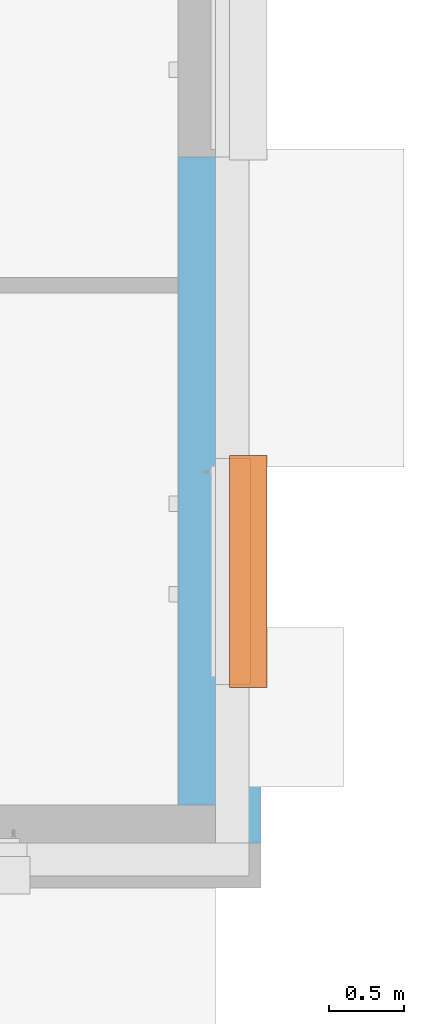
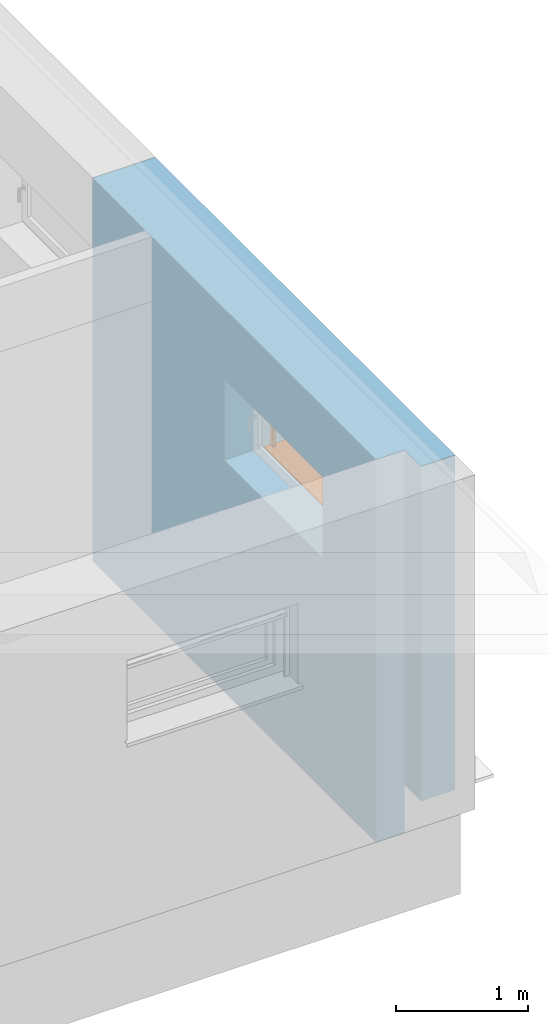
# One storey, part 111 of 140: 2 proxies, 1 opening, plus 1 element that does not belong to this part.
"""IFC4 building model written with IfcOpenShell, lengths in metres."""

from ifc_helpers import new_model, entity, si_unit, converted_unit, derived_unit, frame, origin, origin_with_axes, place, context, subcontext, project, spatial, polyline, outline, extrude, clip, bounded_halfspace, faceted_brep, source, transform, mapped, material, layer, layer_set, layer_usage, element, fill, save


model = new_model("IFC4")

# Units and contexts
model_context = context("Model", 3, precision=1e-05, world=origin())
body_context = subcontext(model_context, "Body", "Model", "MODEL_VIEW")
ifc_project = project(units=[si_unit("LENGTHUNIT", "METRE"), si_unit("AREAUNIT", "SQUARE_METRE"), si_unit("VOLUMEUNIT", "CUBIC_METRE"), si_unit("MASSUNIT", "GRAM", prefix="KILO"), converted_unit("PLANEANGLEUNIT", "DEGREE", entity("IfcPlaneAngleMeasure", 0.0174532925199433), si_unit("PLANEANGLEUNIT", "RADIAN"), dimensions=[0, 0, 0, 0, 0, 0, 0]), derived_unit("THERMALTRANSMITTANCEUNIT", [(si_unit("POWERUNIT", "WATT"), 1), (si_unit("THERMODYNAMICTEMPERATUREUNIT", "KELVIN"), -1), (si_unit("LENGTHUNIT", "METRE"), -2)]), derived_unit("VOLUMETRICFLOWRATEUNIT", [(si_unit("LENGTHUNIT", "METRE"), 3), (converted_unit("TIMEUNIT", "hour", entity("IfcTimeMeasure", 3600.0), si_unit("TIMEUNIT", "SECOND"), dimensions=[0, 0, 1, 0, 0, 0, 0]), -1), (si_unit("LENGTHUNIT", "METRE"), -1)])], contexts=[model_context])

# Site, building, storey
site_placement = place(None, origin())
site = spatial("IfcSite", under=ifc_project, at=site_placement, Name="3. ASŘ", CompositionType="ELEMENT")
building_placement = place(site_placement, origin())
building = spatial("IfcBuilding", under=site, at=building_placement, Name="Pavilon C", CompositionType="ELEMENT")
storey_placement = place(building_placement, origin())
storey = spatial("IfcBuildingStorey", under=building, at=storey_placement, Name="Půdorys 1.NP", CompositionType="ELEMENT", Elevation=0.0)

# Wall, opening, proxies
ifc_material_1 = material(Name="ZELEZOBETONOVÁ KCE")
ifc_layer_1 = layer(ifc_material_1, 0.25)
ifc_material_2 = material(Name="MINERÁLNÍ VATA")
ifc_layer_2 = layer(ifc_material_2, 0.3)
ifc_layer_set = layer_set([ifc_layer_1, ifc_layer_2])
ifc_layer_usage = layer_usage(ifc_layer_set, "AXIS2", "POSITIVE", 0.0)
wall_placement = place(storey_placement, frame((63.55, 10.9, -0.15), z_axis=(0.0, 0.0, 1.0), x_axis=(0.0, -1.0, 0.0)))
wall = element("IfcWall", 1, at=wall_placement, inside=storey, material=ifc_layer_usage, Name="ZELEZOBETONOVÁ KCE", context=body_context, shape_type="Clipping", body=[
    clip(extrude(outline(polyline([(-4.54999999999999, 0.0), (-0.25, 0.0), (-0.25, 0.25), (0.0, 0.25), (0.0, 0.55), (-4.54999999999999, 0.55), (-4.54999999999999, 0.0)])), frame((4.54999999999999, 0.0, 0.0), z_axis=(0.0, 0.0, 1.0), x_axis=(1.0, 0.0, 0.0)), (0.0, 0.0, 1.0), 3.55), bounded_halfspace(frame((2.67999999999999, 0.37, 0.45), z_axis=(0.0, 0.0, 1.0), x_axis=(0.0, -1.0, 0.0)), True, origin_with_axes(), polyline([(0.0, 0.55), (0.0, 0.249999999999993), (4.29999999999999, 0.249999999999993), (4.54999999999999, 0.25), (4.54999999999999, 0.55), (0.0, 0.55)]))),
])
opening_placement = place(wall_placement, frame((3.5, 0.25, 2.15), z_axis=(0.0, -1.0, 0.0), x_axis=(0.0, 0.0, 1.0)))
opening = element("IfcOpeningElement", 2, at=opening_placement, cuts=wall, Name="Okenní otvor", ObjectType="Opening", context=body_context, shape_type="SweptSolid", body=[
    extrude(outline(polyline([(0.0, 1.5), (0.75, 1.5), (0.75, 0.0), (0.0, 0.0), (0.0, 1.5)])), origin_with_axes(), (0.0, 0.0, 1.0), 0.25),
    extrude(outline(polyline([(0.0, 1.5), (0.75, 1.5), (0.75, 0.0), (0.0, 0.0), (0.0, 1.5)])), frame((0.0, 0.0, -0.3), z_axis=(0.0, 0.0, 1.0), x_axis=(1.0, 0.0, 0.0)), (0.0, 0.0, 1.0), 0.3),
])
ifc_material_3 = material(Name="HLINÍKOVÝ PLECH ELOXOVANÝ")
shared_shape_1 = source(origin_with_axes(), body_context, "Body", "Brep", [
    faceted_brep([(-1.81898940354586e-15, -0.299999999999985, 0.0), (-1.81898940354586e-15, -0.0919999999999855, 0.0), (-1.81898940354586e-15, -0.0919999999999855, 0.005), (-1.81898940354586e-15, -0.299999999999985, 0.005), (1.5, -0.299999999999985, 0.0), (1.5, -0.299999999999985, 0.005), (1.5, -0.0919999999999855, 0.005), (1.5, -0.0919999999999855, 0.0), (-0.0200000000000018, -0.299999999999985, 0.0), (-0.0200000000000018, -0.334999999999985, 0.0), (1.52, -0.334999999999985, 0.0), (1.52, -0.299999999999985, 0.0), (1.52, -0.299999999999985, 0.005), (1.52, -0.339999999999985, 0.005), (-0.0200000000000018, -0.339999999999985, 0.005), (-0.0200000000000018, -0.299999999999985, 0.005), (-0.0200000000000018, -0.339999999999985, -0.025), (-0.0200000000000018, -0.334999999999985, -0.025), (1.52, -0.334999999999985, -0.025), (1.52, -0.339999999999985, -0.025)], [[[0, 1, 2, 3]], [[4, 5, 6, 7]], [[1, 0, 8, 9, 10, 11, 4, 7]], [[2, 1, 7, 6]], [[3, 2, 6, 5, 12, 13, 14, 15]], [[8, 15, 14, 16, 17, 9]], [[11, 10, 18, 19, 13, 12]], [[15, 8, 0, 3]], [[5, 4, 11, 12]], [[16, 14, 13, 19]], [[17, 16, 19, 18]], [[9, 17, 18, 10]]], orient=[[False], [False], [False], [False], [False], [False], [False], [False], [False], [False], [False], [False]]),
    faceted_brep([(-0.0200000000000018, -0.299999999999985, 0.0), (-0.0200000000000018, -0.0919999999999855, 0.0), (-0.0200000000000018, -0.0919999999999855, 0.005), (-0.0200000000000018, -0.299999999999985, 0.005), (-1.81898940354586e-15, -0.299999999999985, 0.0), (-1.81898940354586e-15, -0.299999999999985, 0.005), (-1.81898940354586e-15, -0.0919999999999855, 0.005), (-1.81898940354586e-15, -0.0919999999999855, 0.0)], [[[0, 1, 2, 3]], [[4, 5, 6, 7]], [[1, 0, 4, 7]], [[2, 1, 7, 6]], [[3, 2, 6, 5]], [[0, 3, 5, 4]]], orient=[[False], [False], [False], [False], [False], [False]]),
    faceted_brep([(1.5, -0.299999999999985, 0.0), (1.5, -0.0919999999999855, 0.0), (1.5, -0.0919999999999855, 0.005), (1.5, -0.299999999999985, 0.005), (1.52, -0.299999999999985, 0.0), (1.52, -0.299999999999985, 0.005), (1.52, -0.0919999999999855, 0.005), (1.52, -0.0919999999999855, 0.0)], [[[0, 1, 2, 3]], [[4, 5, 6, 7]], [[1, 0, 4, 7]], [[2, 1, 7, 6]], [[3, 2, 6, 5]], [[0, 3, 5, 4]]], orient=[[False], [False], [False], [False], [False], [False]]),
])
proxy_1_placement = place(opening_placement, frame((0.0, 0.0, 0.0), z_axis=(1.0, 0.0, 0.0), x_axis=(0.0, 1.0, 0.0)))
proxy_1 = element("IfcBuildingElementProxy", 3, at=proxy_1_placement, inside=storey, material=ifc_material_3, Name="Parapet vnější", context=body_context, shape_type="MappedRepresentation", body=[
    mapped(shared_shape_1, transform((0.0, 0.0, 0.0), x_axis=(1.0, 0.0, 0.0), y_axis=(0.0, 1.0, 0.0), z_axis=(0.0, 0.0, 1.0), scale=1.0)),
])
fill(opening, proxy_1)
shared_shape_2 = source(origin_with_axes(), body_context, "Body", "Brep", [
    faceted_brep([(-1.81898940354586e-15, -0.231999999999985, 0.75), (-1.81898940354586e-15, -0.229999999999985, 0.75), (-1.81898940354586e-15, -0.229999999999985, 0.948), (-1.81898940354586e-15, -0.0939999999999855, 0.948), (-1.81898940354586e-15, -0.0939999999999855, 0.75), (-1.81898940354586e-15, -0.0919999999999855, 0.75), (-1.81898940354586e-15, -0.0919999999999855, 0.95), (-1.81898940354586e-15, -0.231999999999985, 0.95), (1.5, -0.229999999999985, 0.75), (1.5, -0.231999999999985, 0.75), (1.5, -0.231999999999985, 0.95), (1.5, -0.0919999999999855, 0.95), (1.5, -0.0919999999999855, 0.75), (1.5, -0.0939999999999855, 0.75), (1.5, -0.0939999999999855, 0.948), (1.5, -0.229999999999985, 0.948)], [[[0, 1, 2, 3, 4, 5, 6, 7]], [[8, 9, 10, 11, 12, 13, 14, 15]], [[1, 0, 9, 8]], [[2, 1, 8, 15]], [[3, 2, 15, 14]], [[4, 3, 14, 13]], [[5, 4, 13, 12]], [[6, 5, 12, 11]], [[7, 6, 11, 10]], [[0, 7, 10, 9]]], orient=[[False], [False], [False], [False], [False], [False], [False], [False], [False], [False]]),
    faceted_brep([(-1.81898940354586e-15, -0.229999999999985, 0.75), (-1.81898940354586e-15, -0.0939999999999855, 0.75), (-1.81898940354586e-15, -0.0939999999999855, 0.948), (-1.81898940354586e-15, -0.229999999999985, 0.948), (0.00199999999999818, -0.0939999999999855, 0.75), (0.00199999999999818, -0.229999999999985, 0.75), (0.00199999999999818, -0.229999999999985, 0.948), (0.00199999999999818, -0.0939999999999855, 0.948)], [[[0, 1, 2, 3]], [[4, 5, 6, 7]], [[1, 0, 5, 4]], [[2, 1, 4, 7]], [[3, 2, 7, 6]], [[0, 3, 6, 5]]], orient=[[False], [False], [False], [False], [False], [False]]),
    faceted_brep([(1.498, -0.229999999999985, 0.75), (1.498, -0.0939999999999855, 0.75), (1.498, -0.0939999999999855, 0.948), (1.498, -0.229999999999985, 0.948), (1.5, -0.0939999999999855, 0.75), (1.5, -0.229999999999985, 0.75), (1.5, -0.229999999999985, 0.948), (1.5, -0.0939999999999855, 0.948)], [[[0, 1, 2, 3]], [[4, 5, 6, 7]], [[1, 0, 5, 4]], [[2, 1, 4, 7]], [[3, 2, 7, 6]], [[0, 3, 6, 5]]], orient=[[False], [False], [False], [False], [False], [False]]),
    faceted_brep([(0.00199999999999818, -0.151999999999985, 0.0), (0.00199999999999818, -0.171999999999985, 0.0), (0.0419999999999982, -0.171999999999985, 0.0), (0.0419999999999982, -0.151999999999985, 0.0), (0.00199999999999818, -0.171999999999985, 0.769), (0.00199999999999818, -0.151999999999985, 0.769), (0.0419999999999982, -0.151999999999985, 0.769), (0.0419999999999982, -0.171999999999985, 0.769)], [[[0, 1, 2, 3]], [[4, 5, 6, 7]], [[1, 0, 5, 4]], [[2, 1, 4, 7]], [[3, 2, 7, 6]], [[0, 3, 6, 5]]], orient=[[False], [False], [False], [False], [False], [False]]),
    faceted_brep([(1.458, -0.151999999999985, 0.0), (1.458, -0.171999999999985, 0.0), (1.498, -0.171999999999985, 0.0), (1.498, -0.151999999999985, 0.0), (1.458, -0.171999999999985, 0.769), (1.458, -0.151999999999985, 0.769), (1.498, -0.151999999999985, 0.769), (1.498, -0.171999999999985, 0.769)], [[[0, 1, 2, 3]], [[4, 5, 6, 7]], [[1, 0, 5, 4]], [[2, 1, 4, 7]], [[3, 2, 7, 6]], [[0, 3, 6, 5]]], orient=[[False], [False], [False], [False], [False], [False]]),
    faceted_brep([(0.0419999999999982, -0.121999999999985, 0.6021), (0.0419999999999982, -0.201999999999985, 0.6021), (0.0419999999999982, -0.201999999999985, 0.5871), (0.0419999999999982, -0.121999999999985, 0.5871), (1.458, -0.201999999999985, 0.6021), (1.458, -0.121999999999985, 0.6021), (1.458, -0.121999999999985, 0.5871), (1.458, -0.201999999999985, 0.5871)], [[[0, 1, 2, 3]], [[4, 5, 6, 7]], [[1, 0, 5, 4]], [[2, 1, 4, 7]], [[3, 2, 7, 6]], [[0, 3, 6, 5]]], orient=[[False], [False], [False], [False], [False], [False]]),
    faceted_brep([(0.0419999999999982, -0.121999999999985, 0.6031), (0.0419999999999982, -0.201999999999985, 0.6031), (0.0419999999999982, -0.201999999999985, 0.6021), (0.0419999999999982, -0.121999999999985, 0.6021), (1.458, -0.201999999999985, 0.6031), (1.458, -0.121999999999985, 0.6031), (1.458, -0.121999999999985, 0.6021), (1.458, -0.201999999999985, 0.6021)], [[[0, 1, 2, 3]], [[4, 5, 6, 7]], [[1, 0, 5, 4]], [[2, 1, 4, 7]], [[3, 2, 7, 6]], [[0, 3, 6, 5]]], orient=[[False], [False], [False], [False], [False], [False]]),
    faceted_brep([(0.0419999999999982, -0.121999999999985, 0.6041), (0.0419999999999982, -0.201999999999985, 0.6041), (0.0419999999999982, -0.201999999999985, 0.6031), (0.0419999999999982, -0.121999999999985, 0.6031), (1.458, -0.201999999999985, 0.6041), (1.458, -0.121999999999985, 0.6041), (1.458, -0.121999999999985, 0.6031), (1.458, -0.201999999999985, 0.6031)], [[[0, 1, 2, 3]], [[4, 5, 6, 7]], [[1, 0, 5, 4]], [[2, 1, 4, 7]], [[3, 2, 7, 6]], [[0, 3, 6, 5]]], orient=[[False], [False], [False], [False], [False], [False]]),
    faceted_brep([(0.0419999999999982, -0.121999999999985, 0.6051), (0.0419999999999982, -0.201999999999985, 0.6051), (0.0419999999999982, -0.201999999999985, 0.6041), (0.0419999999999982, -0.121999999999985, 0.6041), (1.458, -0.201999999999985, 0.6051), (1.458, -0.121999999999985, 0.6051), (1.458, -0.121999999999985, 0.6041), (1.458, -0.201999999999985, 0.6041)], [[[0, 1, 2, 3]], [[4, 5, 6, 7]], [[1, 0, 5, 4]], [[2, 1, 4, 7]], [[3, 2, 7, 6]], [[0, 3, 6, 5]]], orient=[[False], [False], [False], [False], [False], [False]]),
    faceted_brep([(0.0419999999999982, -0.121999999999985, 0.6061), (0.0419999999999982, -0.201999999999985, 0.6061), (0.0419999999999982, -0.201999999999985, 0.6051), (0.0419999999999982, -0.121999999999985, 0.6051), (1.458, -0.201999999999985, 0.6061), (1.458, -0.121999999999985, 0.6061), (1.458, -0.121999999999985, 0.6051), (1.458, -0.201999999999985, 0.6051)], [[[0, 1, 2, 3]], [[4, 5, 6, 7]], [[1, 0, 5, 4]], [[2, 1, 4, 7]], [[3, 2, 7, 6]], [[0, 3, 6, 5]]], orient=[[False], [False], [False], [False], [False], [False]]),
    faceted_brep([(0.0419999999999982, -0.121999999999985, 0.6071), (0.0419999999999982, -0.201999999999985, 0.6071), (0.0419999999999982, -0.201999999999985, 0.6061), (0.0419999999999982, -0.121999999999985, 0.6061), (1.458, -0.201999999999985, 0.6071), (1.458, -0.121999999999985, 0.6071), (1.458, -0.121999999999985, 0.6061), (1.458, -0.201999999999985, 0.6061)], [[[0, 1, 2, 3]], [[4, 5, 6, 7]], [[1, 0, 5, 4]], [[2, 1, 4, 7]], [[3, 2, 7, 6]], [[0, 3, 6, 5]]], orient=[[False], [False], [False], [False], [False], [False]]),
    faceted_brep([(0.0419999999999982, -0.121999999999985, 0.6081), (0.0419999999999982, -0.201999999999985, 0.6081), (0.0419999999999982, -0.201999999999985, 0.6071), (0.0419999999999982, -0.121999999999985, 0.6071), (1.458, -0.201999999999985, 0.6081), (1.458, -0.121999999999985, 0.6081), (1.458, -0.121999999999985, 0.6071), (1.458, -0.201999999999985, 0.6071)], [[[0, 1, 2, 3]], [[4, 5, 6, 7]], [[1, 0, 5, 4]], [[2, 1, 4, 7]], [[3, 2, 7, 6]], [[0, 3, 6, 5]]], orient=[[False], [False], [False], [False], [False], [False]]),
    faceted_brep([(0.0419999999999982, -0.121999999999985, 0.6091), (0.0419999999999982, -0.201999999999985, 0.6091), (0.0419999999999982, -0.201999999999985, 0.6081), (0.0419999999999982, -0.121999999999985, 0.6081), (1.458, -0.201999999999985, 0.6091), (1.458, -0.121999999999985, 0.6091), (1.458, -0.121999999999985, 0.6081), (1.458, -0.201999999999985, 0.6081)], [[[0, 1, 2, 3]], [[4, 5, 6, 7]], [[1, 0, 5, 4]], [[2, 1, 4, 7]], [[3, 2, 7, 6]], [[0, 3, 6, 5]]], orient=[[False], [False], [False], [False], [False], [False]]),
    faceted_brep([(0.0419999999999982, -0.121999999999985, 0.6101), (0.0419999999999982, -0.201999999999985, 0.6101), (0.0419999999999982, -0.201999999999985, 0.6091), (0.0419999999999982, -0.121999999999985, 0.6091), (1.458, -0.201999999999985, 0.6101), (1.458, -0.121999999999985, 0.6101), (1.458, -0.121999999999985, 0.6091), (1.458, -0.201999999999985, 0.6091)], [[[0, 1, 2, 3]], [[4, 5, 6, 7]], [[1, 0, 5, 4]], [[2, 1, 4, 7]], [[3, 2, 7, 6]], [[0, 3, 6, 5]]], orient=[[False], [False], [False], [False], [False], [False]]),
    faceted_brep([(0.0419999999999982, -0.121999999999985, 0.6111), (0.0419999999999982, -0.201999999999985, 0.6111), (0.0419999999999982, -0.201999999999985, 0.6101), (0.0419999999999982, -0.121999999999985, 0.6101), (1.458, -0.201999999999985, 0.6111), (1.458, -0.121999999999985, 0.6111), (1.458, -0.121999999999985, 0.6101), (1.458, -0.201999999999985, 0.6101)], [[[0, 1, 2, 3]], [[4, 5, 6, 7]], [[1, 0, 5, 4]], [[2, 1, 4, 7]], [[3, 2, 7, 6]], [[0, 3, 6, 5]]], orient=[[False], [False], [False], [False], [False], [False]]),
    faceted_brep([(0.0419999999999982, -0.121999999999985, 0.6121), (0.0419999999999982, -0.201999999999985, 0.6121), (0.0419999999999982, -0.201999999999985, 0.6111), (0.0419999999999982, -0.121999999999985, 0.6111), (1.458, -0.201999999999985, 0.6121), (1.458, -0.121999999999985, 0.6121), (1.458, -0.121999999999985, 0.6111), (1.458, -0.201999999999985, 0.6111)], [[[0, 1, 2, 3]], [[4, 5, 6, 7]], [[1, 0, 5, 4]], [[2, 1, 4, 7]], [[3, 2, 7, 6]], [[0, 3, 6, 5]]], orient=[[False], [False], [False], [False], [False], [False]]),
    faceted_brep([(0.0419999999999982, -0.121999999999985, 0.6131), (0.0419999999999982, -0.201999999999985, 0.6131), (0.0419999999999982, -0.201999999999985, 0.6121), (0.0419999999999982, -0.121999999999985, 0.6121), (1.458, -0.201999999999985, 0.6131), (1.458, -0.121999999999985, 0.6131), (1.458, -0.121999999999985, 0.6121), (1.458, -0.201999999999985, 0.6121)], [[[0, 1, 2, 3]], [[4, 5, 6, 7]], [[1, 0, 5, 4]], [[2, 1, 4, 7]], [[3, 2, 7, 6]], [[0, 3, 6, 5]]], orient=[[False], [False], [False], [False], [False], [False]]),
    faceted_brep([(0.0419999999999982, -0.121999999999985, 0.6141), (0.0419999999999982, -0.201999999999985, 0.6141), (0.0419999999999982, -0.201999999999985, 0.6131), (0.0419999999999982, -0.121999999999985, 0.6131), (1.458, -0.201999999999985, 0.6141), (1.458, -0.121999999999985, 0.6141), (1.458, -0.121999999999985, 0.6131), (1.458, -0.201999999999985, 0.6131)], [[[0, 1, 2, 3]], [[4, 5, 6, 7]], [[1, 0, 5, 4]], [[2, 1, 4, 7]], [[3, 2, 7, 6]], [[0, 3, 6, 5]]], orient=[[False], [False], [False], [False], [False], [False]]),
    faceted_brep([(0.0419999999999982, -0.121999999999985, 0.6151), (0.0419999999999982, -0.201999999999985, 0.6151), (0.0419999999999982, -0.201999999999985, 0.6141), (0.0419999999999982, -0.121999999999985, 0.6141), (1.458, -0.201999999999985, 0.6151), (1.458, -0.121999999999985, 0.6151), (1.458, -0.121999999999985, 0.6141), (1.458, -0.201999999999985, 0.6141)], [[[0, 1, 2, 3]], [[4, 5, 6, 7]], [[1, 0, 5, 4]], [[2, 1, 4, 7]], [[3, 2, 7, 6]], [[0, 3, 6, 5]]], orient=[[False], [False], [False], [False], [False], [False]]),
    faceted_brep([(0.0419999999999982, -0.121999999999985, 0.6161), (0.0419999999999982, -0.201999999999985, 0.6161), (0.0419999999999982, -0.201999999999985, 0.6151), (0.0419999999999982, -0.121999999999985, 0.6151), (1.458, -0.201999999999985, 0.6161), (1.458, -0.121999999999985, 0.6161), (1.458, -0.121999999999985, 0.6151), (1.458, -0.201999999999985, 0.6151)], [[[0, 1, 2, 3]], [[4, 5, 6, 7]], [[1, 0, 5, 4]], [[2, 1, 4, 7]], [[3, 2, 7, 6]], [[0, 3, 6, 5]]], orient=[[False], [False], [False], [False], [False], [False]]),
    faceted_brep([(0.0419999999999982, -0.123299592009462, 0.645125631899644), (0.0419999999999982, -0.200941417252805, 0.625844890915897), (0.0419999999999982, -0.200700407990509, 0.624874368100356), (0.0419999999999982, -0.123058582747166, 0.644155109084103), (1.458, -0.200941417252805, 0.625844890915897), (1.458, -0.123299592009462, 0.645125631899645), (1.458, -0.123058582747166, 0.644155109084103), (1.458, -0.200700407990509, 0.624874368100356)], [[[0, 1, 2, 3]], [[4, 5, 6, 7]], [[1, 0, 5, 4]], [[2, 1, 4, 7]], [[3, 2, 7, 6]], [[0, 3, 6, 5]]], orient=[[False], [False], [False], [False], [False], [False]]),
    faceted_brep([(0.0419999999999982, -0.127608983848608, 0.700433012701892), (0.0419999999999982, -0.196891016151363, 0.660433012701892), (0.0419999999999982, -0.196391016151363, 0.659566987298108), (0.0419999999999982, -0.127108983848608, 0.699566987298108), (1.458, -0.196891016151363, 0.660433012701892), (1.458, -0.127608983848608, 0.700433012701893), (1.458, -0.127108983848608, 0.699566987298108), (1.458, -0.196391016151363, 0.659566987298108)], [[[0, 1, 2, 3]], [[4, 5, 6, 7]], [[1, 0, 5, 4]], [[2, 1, 4, 7]], [[3, 2, 7, 6]], [[0, 3, 6, 5]]], orient=[[False], [False], [False], [False], [False], [False]]),
    faceted_brep([(0.0419999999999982, -0.127608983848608, 0.745433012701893), (0.0419999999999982, -0.196891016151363, 0.705433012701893), (0.0419999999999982, -0.196391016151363, 0.704566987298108), (0.0419999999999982, -0.127108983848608, 0.744566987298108), (1.458, -0.196891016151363, 0.705433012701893), (1.458, -0.127608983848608, 0.745433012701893), (1.458, -0.127108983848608, 0.744566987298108), (1.458, -0.196391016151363, 0.704566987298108)], [[[0, 1, 2, 3]], [[4, 5, 6, 7]], [[1, 0, 5, 4]], [[2, 1, 4, 7]], [[3, 2, 7, 6]], [[0, 3, 6, 5]]], orient=[[False], [False], [False], [False], [False], [False]]),
])
proxy_2_placement = place(opening_placement, frame((0.0, 0.0, 0.0), z_axis=(1.0, 0.0, 0.0), x_axis=(0.0, 1.0, 0.0)))
proxy_2 = element("IfcBuildingElementProxy", 4, at=proxy_2_placement, inside=storey, Name="Žaluzie", context=body_context, shape_type="MappedRepresentation", body=[
    mapped(shared_shape_2, transform((0.0, 0.0, 0.0), x_axis=(1.0, 0.0, 0.0), y_axis=(0.0, 1.0, 0.0), z_axis=(0.0, 0.0, 1.0), scale=1.0)),
])
fill(opening, proxy_2)

save(model, "model.ifc")
